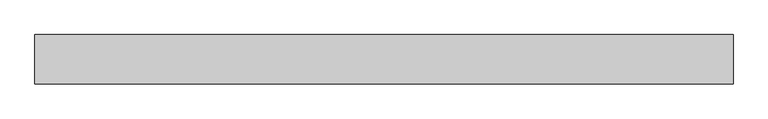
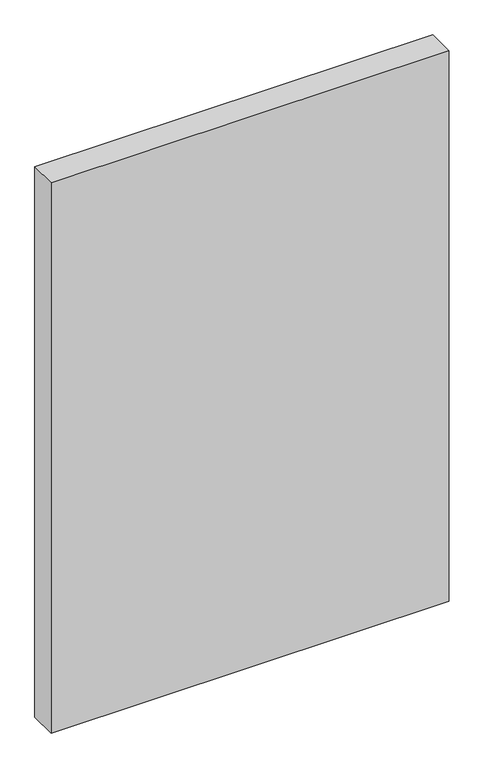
"""IFC4 building model written with IfcOpenShell, lengths in millimetres: proxy geometry."""

from ifc_helpers import new_model, si_unit, origin, origin_with_axes, place, context, project, spatial, polyline, outline, extrude, source, transform, mapped, element, save


def generic_models_a22618b4(model_context):
    return source(origin(), model_context, "Body", "SweptSolid", [
        extrude(outline(polyline([(1420.0, 0.0), (0.0, 0.0), (0.0, 100.0), (1420.0, 100.0), (1420.0, 0.0)])), origin_with_axes(), (0.0, 0.0, 1.0), 2075.0),
    ])


if __name__ == "__main__":
    model = new_model("IFC4")
    model_context = context("Model", 3, world=origin())
    ifc_project = project(units=[si_unit("LENGTHUNIT", "METRE", prefix="MILLI")], contexts=[model_context])
    site = spatial("IfcSite", under=ifc_project)
    building = spatial("IfcBuilding", under=site)
    placement = place(None, origin())
    generic_models_shape = generic_models_a22618b4(model_context)
    element("IfcBuildingElementProxy", 1, Name="Generic Models", at=placement, inside=building, context=model_context, shape_type="MappedRepresentation", body=[
        mapped(generic_models_shape, transform((0.0, 0.0, 0.0), x_axis=(1.0, 0.0, 0.0), y_axis=(0.0, 1.0, 0.0), z_axis=(0.0, 0.0, 1.0))),
    ])
    save(model, "model.ifc")
